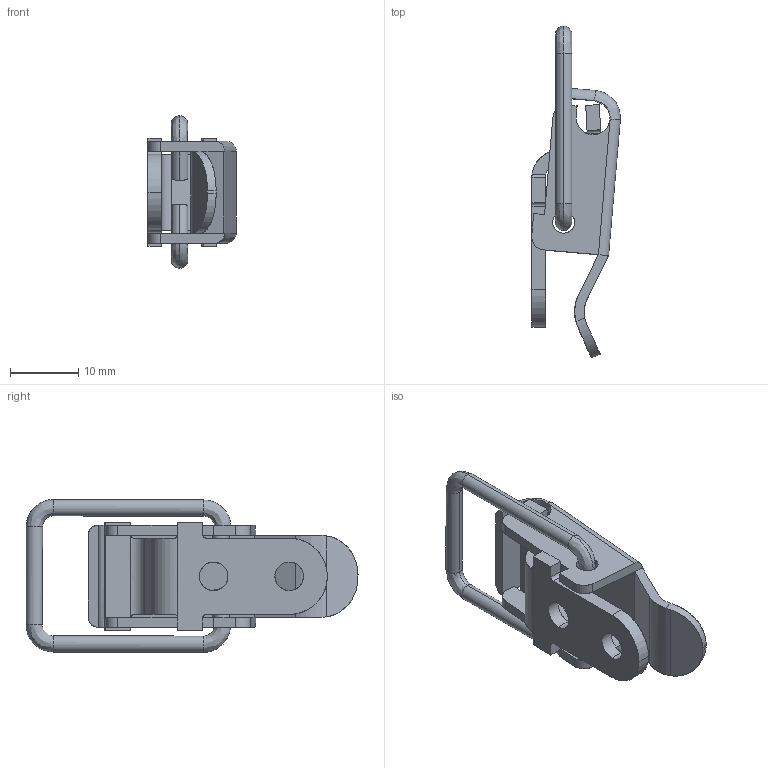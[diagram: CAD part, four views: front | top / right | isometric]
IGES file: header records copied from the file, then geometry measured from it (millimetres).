
Start section: SolidWorks IGES FILE using analytic representation for surfaces
Global section: file name: C:\Documents and Settings\brechard\Bureau\GO 6\GO 6.IGS; native system: SolidWorks 2001Plus by SolidWorks Corporation; preprocessor: Version 5.3; author: brechard; date: 050126.141601; units: millimetre
Bounding box: 13.01 x 48.79 x 22.46 mm (x, y, z)
Surface area: 3872 mm2 (no closed solid volume)
Topology: 0 solids, 0 shells, 165 faces, 1319 edges, 1260 vertices
Faces by surface type: revolution 104, bspline 61
